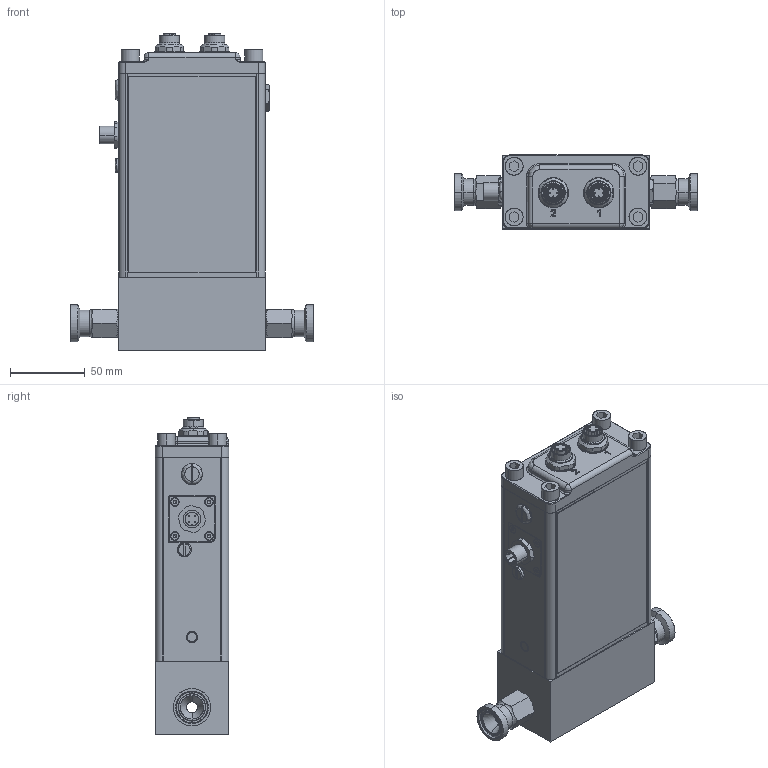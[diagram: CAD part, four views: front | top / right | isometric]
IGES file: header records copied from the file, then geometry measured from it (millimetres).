
Start section: SolidWorks IGES file using analytic representation for surfaces
Global section: file name: G:\Engineering\CAD MODELS FOR SALES\CAD MODEL STORAGE\SLA\SLAMF60\CUSTOMER FILES\IGES\SLAMF60-7-5A-0-A-REVB.IGS; native system: SolidWorks 2023; preprocessor: SolidWorks 2023; author: SThen; date: 240501.144921; units: inch
Bounding box: 162.61 x 49.5 x 212.9 mm (x, y, z)
Surface area: 185190.3 mm2 (no closed solid volume)
Topology: 0 solids, 0 shells, 1362 faces, 19365 edges, 19357 vertices
Faces by surface type: revolution 714, bspline 648
